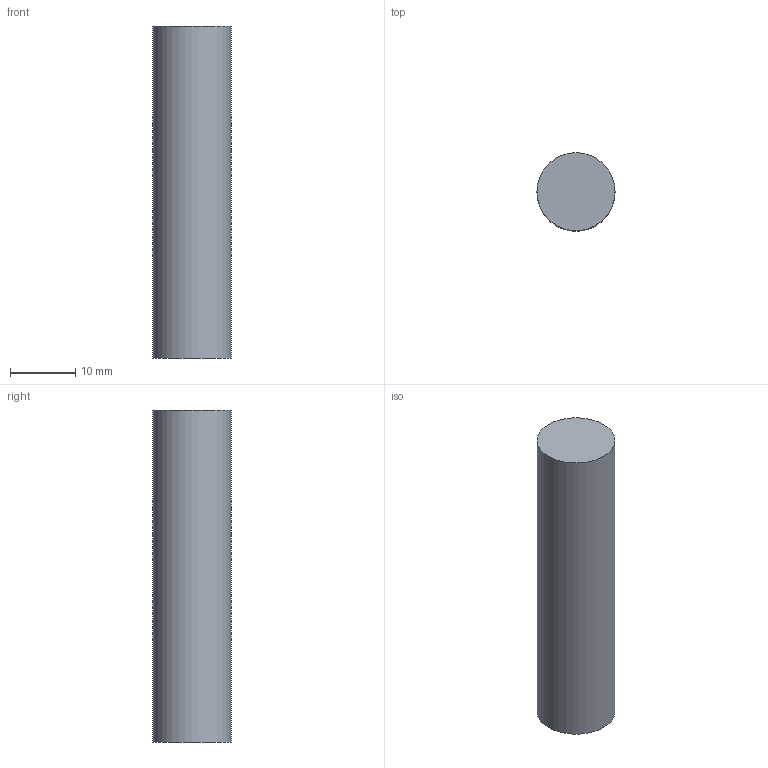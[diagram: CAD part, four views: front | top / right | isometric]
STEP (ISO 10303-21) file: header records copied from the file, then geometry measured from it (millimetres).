
FILE_DESCRIPTION(('Open CASCADE Model'),'2;1');
FILE_NAME('Open CASCADE Shape Model','2026-10-04T01:02:28',('Author'),( 'Open CASCADE'),'Open CASCADE STEP processor 8.0','Open CASCADE 8.0' ,'Unknown');
FILE_SCHEMA(('AUTOMOTIVE_DESIGN { 1 0 10303 214 1 1 1 1 }'));
Length unit declared in the file: millimetre
Products named in the file (1): Open CASCADE STEP translator 8.0 136
Bounding box: 12 x 12 x 51 mm (x, y, z)
Volume: 5768 mm3; surface area: 2148.8 mm2
Topology: 1 solids, 1 shells, 3 faces, 3 edges, 2 vertices
Faces by surface type: plane 2, cylinder 1
Full cylindrical faces by diameter (mm): 12 x1
Entity records: 108 total; most frequent: DIRECTION 19, CARTESIAN_POINT 15, AXIS2_PLACEMENT_3D 6, ORIENTED_EDGE 6, PCURVE 6, DEFINITIONAL_REPRESENTATION 6, LINE 5, VECTOR 5
